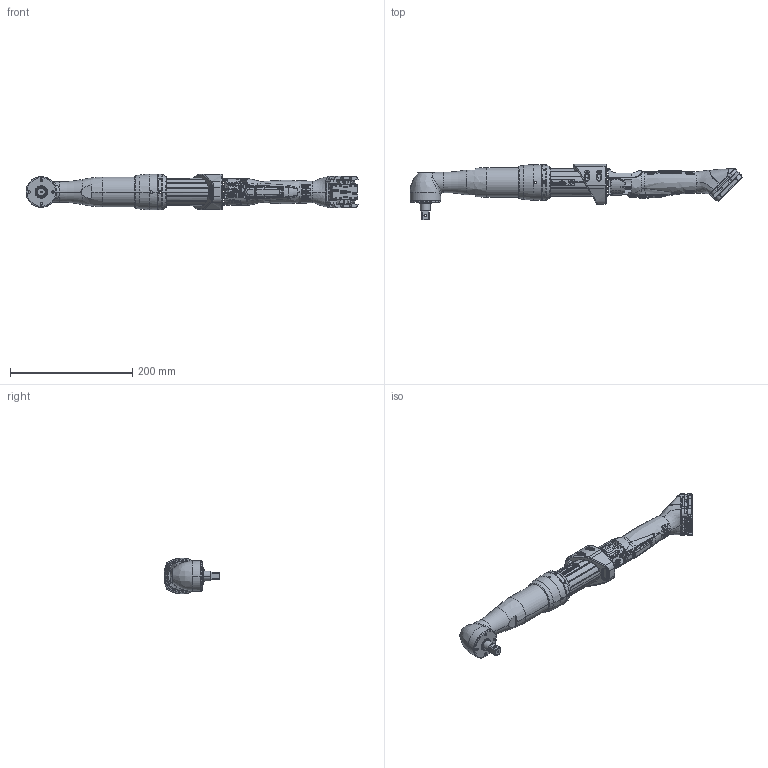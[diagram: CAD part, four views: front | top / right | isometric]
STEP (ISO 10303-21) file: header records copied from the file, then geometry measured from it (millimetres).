
FILE_DESCRIPTION((''),'2;1');
FILE_NAME('6151663300_DIM','2026-02-10T14:20:45',('SYSTEM'),(''),'CREO PARAMETRIC BY PTC INC, 2023494','CREO PARAMETRIC BY PTC INC, 2023494','');
FILE_SCHEMA(('AP242_MANAGED_MODEL_BASED_3D_ENGINEERING_MIM_LF { 1 0 10303 442 1 1 4 }'));
Length unit declared in the file: millimetre
Products named in the file (1): 6151663300_DIM
Bounding box: 543.53 x 91.4 x 58.7 mm (x, y, z)
Surface area: 103064.5 mm2 (no closed solid volume)
Topology: 0 solids, 430 shells, 2831 faces, 11028 edges, 8329 vertices
Faces by surface type: plane 1994, cylinder 371, bspline 330, cone 55, torus 46, sphere 24, extrusion 11
Entity records: 166450 total; most frequent: CARTESIAN_POINT 65775, ORIENTED_EDGE 15488, DIRECTION 13725, EDGE_CURVE 11010, VERTEX_POINT 8327, VECTOR 6649, LINE 6638, AXIS2_PLACEMENT_3D 3538
